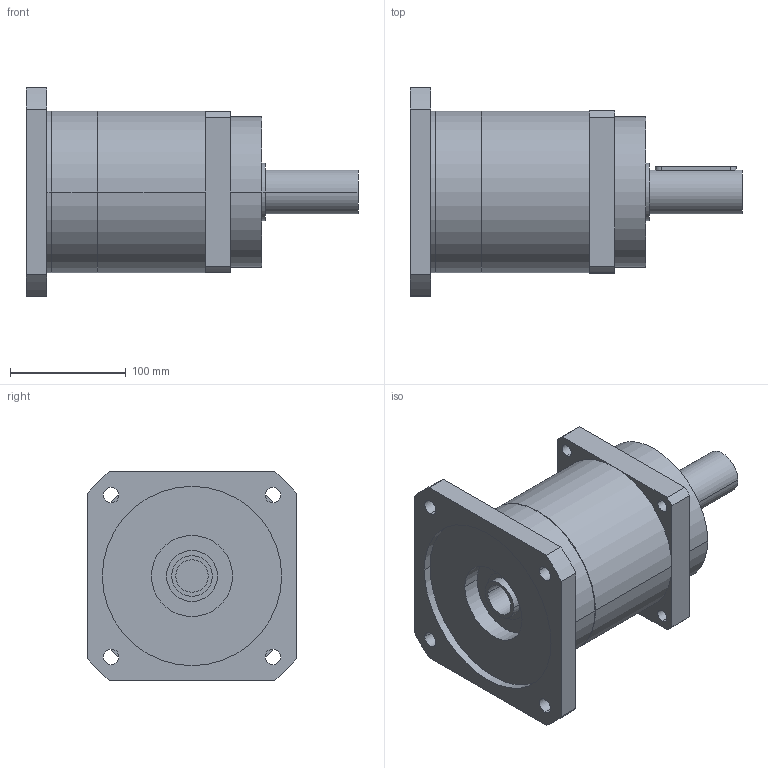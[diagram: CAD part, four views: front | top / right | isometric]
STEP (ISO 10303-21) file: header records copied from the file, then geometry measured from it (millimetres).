
FILE_DESCRIPTION(('CoCreate Modeling STEP Export'),'2;1');
FILE_NAME('GPR150_ig-3-4-5-7_38_B5_28_P11.stp','2014-08-19T16:42:46',(''),(''),'CoCreate Modeling STEP processor for AP214 (Solid Model)','CoCreate Modeling 16.00C 25-Feb-2009 (C) Parametric Technology GmbH','');
FILE_SCHEMA(('AUTOMOTIVE_DESIGN { 1 0 10303 214 1 1 1 1 }'));
Length unit declared in the file: millimetre
Products named in the file (2): GPR150_ig-3-4-5-7_38_B5_28_P11
Assembly tree (1 placements, depth 2):
  GPR150_ig-3-4-5-7_38_B5_28_P11
    GPR150_ig-3-4-5-7_38_B5_28_P11
Bounding box: 287 x 180 x 180 mm (x, y, z)
Volume: 3318005.5 mm3; surface area: 197266.1 mm2
Topology: 1 solids, 1 shells, 84 faces, 227 edges, 155 vertices
Faces by surface type: cylinder 50, plane 28, cone 6
Entity records: 2395 total; most frequent: ORIENTED_EDGE 450, CARTESIAN_POINT 442, DIRECTION 340, EDGE_CURVE 225, VERTEX_POINT 155, AXIS2_PLACEMENT_3D 125, EDGE_LOOP 112, VECTOR 90
